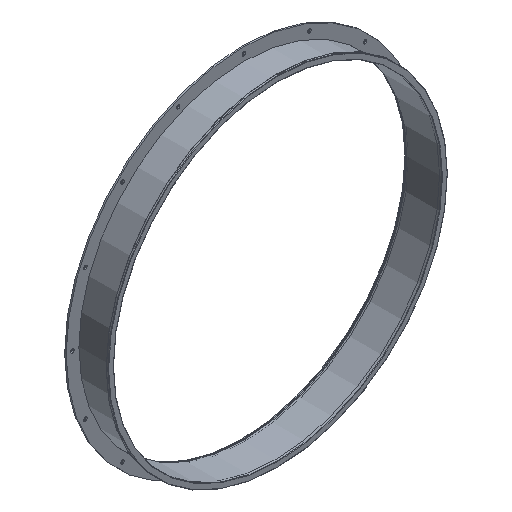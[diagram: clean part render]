
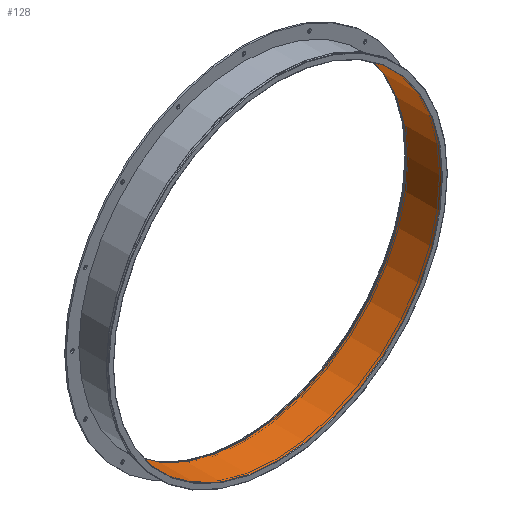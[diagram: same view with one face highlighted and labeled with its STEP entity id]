
A CAD part, isometric view. The second image highlights one B-rep face of the part: STEP entity #128.
In plain terms, the highlighted cylindrical face has radius 450 mm (diameter 900 mm), a full revolution.
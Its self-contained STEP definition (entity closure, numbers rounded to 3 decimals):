
#128=ADVANCED_FACE('',(#205,#206),#160,.F.);
#160=CYLINDRICAL_SURFACE('',#715,450.);
#205=FACE_BOUND('',#317,.T.);
#206=FACE_BOUND('',#318,.T.);
#317=EDGE_LOOP('',(#429));
#318=EDGE_LOOP('',(#430));
#429=ORIENTED_EDGE('',*,*,#588,.T.);
#430=ORIENTED_EDGE('',*,*,#589,.T.);
#532=VERTEX_POINT('',#1020);
#533=VERTEX_POINT('',#1022);
#588=EDGE_CURVE('',#532,#532,#644,.T.);
#589=EDGE_CURVE('',#533,#533,#645,.T.);
#644=CIRCLE('',#713,450.);
#645=CIRCLE('',#714,450.);
#713=AXIS2_PLACEMENT_3D('',#1019,#838,#839);
#714=AXIS2_PLACEMENT_3D('',#1021,#840,#841);
#715=AXIS2_PLACEMENT_3D('',#1023,#842,#843);
#838=DIRECTION('',(0.,-1.,0.));
#839=DIRECTION('',(-1.,0.,0.));
#840=DIRECTION('',(0.,1.,0.));
#841=DIRECTION('',(1.,0.,0.));
#842=DIRECTION('',(0.,1.,0.));
#843=DIRECTION('',(1.,0.,0.));
#1019=CARTESIAN_POINT('',(0.,1.,0.));
#1020=CARTESIAN_POINT('',(-450.,1.,0.));
#1021=CARTESIAN_POINT('',(0.,99.,0.));
#1022=CARTESIAN_POINT('',(450.,99.,0.));
#1023=CARTESIAN_POINT('',(0.,-192.076,0.));
